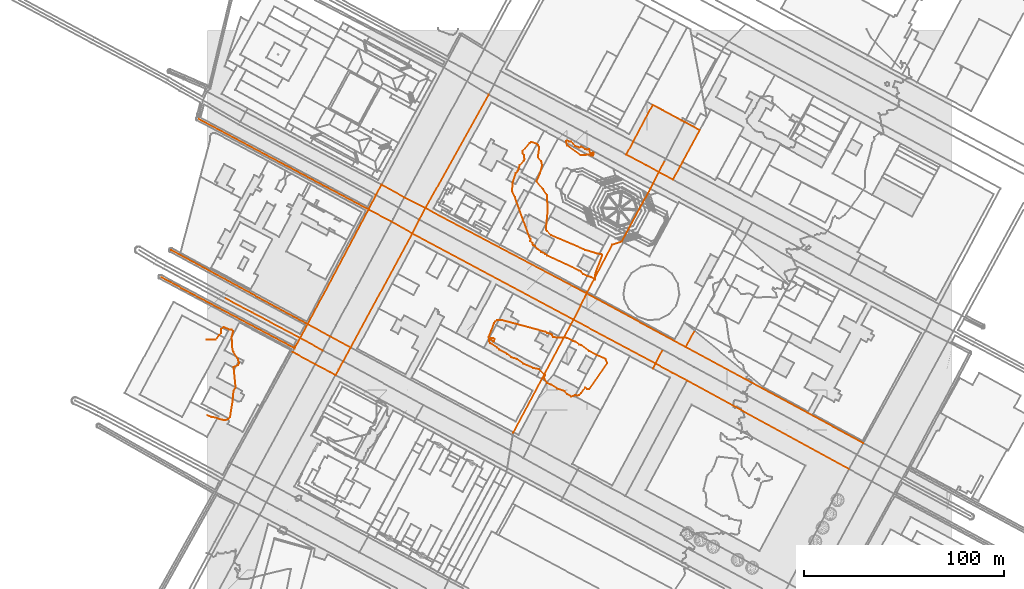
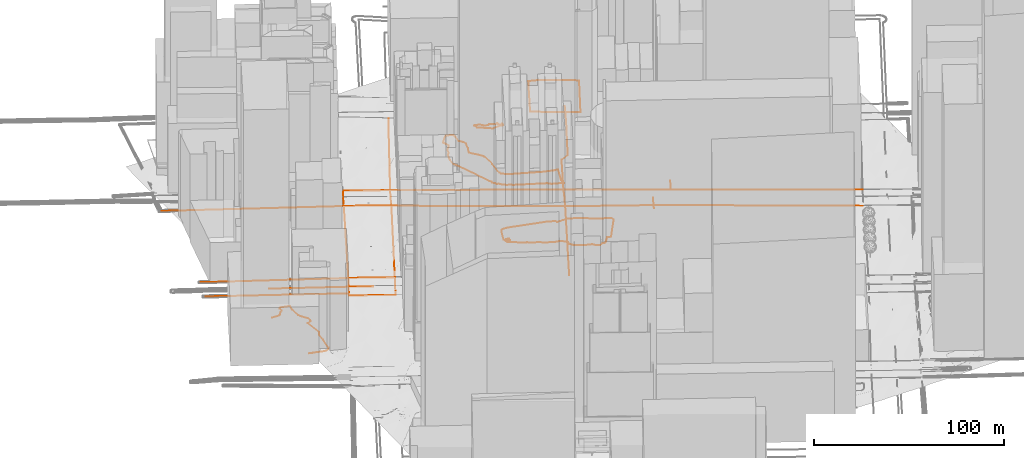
# Not in any storey, part 59 of 76: 26 proxies.
"""IFC2X3 model written with IfcOpenShell, lengths in metres."""

from ifc_helpers import new_model, entity, si_unit, frame, origin_with_axes, place, context, subcontext, project, element, save


model = new_model("IFC2X3")

# Units and contexts
model_context = context("Model", 3, precision=1e-05, world=origin_with_axes())
body_context = subcontext(model_context, "Body", "Model", "MODEL_VIEW")
ifc_project = project(units=[si_unit("AREAUNIT", "SQUARE_METRE"), si_unit("LENGTHUNIT", "METRE")], contexts=[model_context])

# Proxies
proxy_1_placement = place(None, frame((221.6914920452, 300.1820826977, 22.0065452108), z_axis=(0.0, 0.0, 1.0), x_axis=(1.0, 0.0, 0.0)))
element("IfcBuildingElementProxy", 1, at=proxy_1_placement, Name="Route 0", ObjectType="NOTDEFINED", context=body_context, shape_type="GeometricCurveSet", body=[
    entity("IfcGeometricCurveSet", [entity("IfcPolyline", [entity("IfcCartesianPoint", [7.1813434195, 13.9835591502, -0.007102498]), entity("IfcCartesianPoint", [4.3171463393, 8.3991133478, -0.0301236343]), entity("IfcCartesianPoint", [1.3868431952, 2.6917750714, -0.0089403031]), entity("IfcCartesianPoint", [0.0, 0.0, 0.0])])]),
])
proxy_2_placement = place(None, frame((209.716351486, 317.3290231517, 22.5387730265), z_axis=(0.0, 0.0, 1.0), x_axis=(1.0, 0.0, 0.0)))
element("IfcBuildingElementProxy", 2, at=proxy_2_placement, Name="Route 18", ObjectType="NOTDEFINED", context=body_context, shape_type="GeometricCurveSet", body=[
    entity("IfcGeometricCurveSet", [entity("IfcPolyline", [entity("IfcCartesianPoint", [13.224989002, 24.9007489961, -0.0643946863]), entity("IfcCartesianPoint", [3.4611854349, 6.51286982, -0.0049201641]), entity("IfcCartesianPoint", [0.0, 0.0, 0.0]), entity("IfcCartesianPoint", [9.8195148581, -5.2703915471, -0.3813969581]), entity("IfcCartesianPoint", [16.2922868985, -8.7478271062, -0.56235145]), entity("IfcCartesianPoint", [23.3089849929, -12.5408953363, -0.8260529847]), entity("IfcCartesianPoint", [26.8958559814, -5.9488364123, -0.8414921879]), entity("IfcCartesianPoint", [28.0941194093, -3.7366492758, -0.7556451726]), entity("IfcCartesianPoint", [36.7634854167, 12.2182371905, -0.1904538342]), entity("IfcCartesianPoint", [29.1522436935, 16.3263411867, 0.3171468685]), entity("IfcCartesianPoint", [27.6912307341, 17.1087071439, 0.3496432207]), entity("IfcCartesianPoint", [18.2621757, 22.1948782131, 0.4989657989]), entity("IfcCartesianPoint", [13.224989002, 24.9007489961, -0.0643946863])])]),
])
proxy_3_placement = place(None, frame((190.2222719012, 248.6125172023, 21.7573858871), z_axis=(0.0, 0.0, 1.0), x_axis=(1.0, 0.0, 0.0)))
element("IfcBuildingElementProxy", 3, at=proxy_3_placement, Name="Route 22", ObjectType="NOTDEFINED", context=body_context, shape_type="GeometricCurveSet", body=[
    entity("IfcGeometricCurveSet", [entity("IfcPolyline", [entity("IfcCartesianPoint", [31.469220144, 51.5695654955, 0.2491593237]), entity("IfcCartesianPoint", [17.1970672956, 25.2466581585, 0.1757418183]), entity("IfcCartesianPoint", [12.4971571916, 23.6265853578, -0.2456597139]), entity("IfcCartesianPoint", [0.0, 0.0, 0.0])])]),
])
proxy_4_placement = place(None, frame((239.4445487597, 221.0185473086, 20.588457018), z_axis=(0.0, 0.0, 1.0), x_axis=(1.0, 0.0, 0.0)))
element("IfcBuildingElementProxy", 4, at=proxy_4_placement, Name="Route 26", ObjectType="NOTDEFINED", context=body_context, shape_type="GeometricCurveSet", body=[
    entity("IfcGeometricCurveSet", [entity("IfcPolyline", [entity("IfcCartesianPoint", [4.3627355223, 8.1109935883, -0.0503170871]), entity("IfcCartesianPoint", [0.0, 0.0, 0.0])])]),
])
proxy_5_placement = place(None, frame((183.2933523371, 234.687446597, 21.2020044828), z_axis=(0.0, 0.0, 1.0), x_axis=(1.0, 0.0, 0.0)))
element("IfcBuildingElementProxy", 5, at=proxy_5_placement, Name="Route 28", ObjectType="NOTDEFINED", context=body_context, shape_type="GeometricCurveSet", body=[
    entity("IfcGeometricCurveSet", [entity("IfcPolyline", [entity("IfcCartesianPoint", [6.9289195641, 13.9250706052, 0.5553814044]), entity("IfcCartesianPoint", [6.5412600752, 13.1434054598, 0.5564297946]), entity("IfcCartesianPoint", [3.5721866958, 7.1358717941, 0.5930666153]), entity("IfcCartesianPoint", [0.0, 0.0, 0.0])])]),
])
proxy_6_placement = place(None, frame((223.0244156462, 210.2581966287, 20.9465773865), z_axis=(0.0, 0.0, 1.0), x_axis=(1.0, 0.0, 0.0)))
element("IfcBuildingElementProxy", 6, at=proxy_6_placement, Name="Route 29", ObjectType="NOTDEFINED", context=body_context, shape_type="GeometricCurveSet", body=[
    entity("IfcGeometricCurveSet", [entity("IfcPolyline", [entity("IfcCartesianPoint", [4.8122586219, 9.3818691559, -0.111767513]), entity("IfcCartesianPoint", [1.2625798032, 2.4904885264, -0.0685903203]), entity("IfcCartesianPoint", [0.0, 0.0, 0.0])])]),
])
proxy_7_placement = place(None, frame((102.657445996, 277.837477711, 23.607753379), z_axis=(0.0, 0.0, 1.0), x_axis=(1.0, 0.0, 0.0)))
element("IfcBuildingElementProxy", 7, at=proxy_7_placement, Name="Route 63", ObjectType="NOTDEFINED", context=body_context, shape_type="GeometricCurveSet", body=[
    entity("IfcGeometricCurveSet", [entity("IfcPolyline", [entity("IfcCartesianPoint", [218.4686729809, -117.874379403, -5.0704013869]), entity("IfcCartesianPoint", [137.4800820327, -73.5752777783, -3.1306998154]), entity("IfcCartesianPoint", [130.3192845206, -69.7394813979, -2.9728178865]), entity("IfcCartesianPoint", [121.6295494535, -65.088792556, -2.7297663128]), entity("IfcCartesianPoint", [80.6359063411, -43.150031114, -2.4057488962]), entity("IfcCartesianPoint", [0.0, 0.0, 0.0])])]),
])
proxy_8_placement = place(None, frame((153.1873042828, 178.3599374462, 21.5808719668), z_axis=(0.0, 0.0, 1.0), x_axis=(1.0, 0.0, 0.0)))
element("IfcBuildingElementProxy", 8, at=proxy_8_placement, Name="Route 71", ObjectType="NOTDEFINED", context=body_context, shape_type="GeometricCurveSet", body=[
    entity("IfcGeometricCurveSet", [entity("IfcPolyline", [entity("IfcCartesianPoint", [30.1060480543, 56.3275091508, -0.378867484]), entity("IfcCartesianPoint", [0.0, 0.0, 0.0])])]),
])
proxy_9_placement = place(None, frame((109.1959105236, 290.5033806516, 23.5796819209), z_axis=(0.0, 0.0, 1.0), x_axis=(1.0, 0.0, 0.0)))
element("IfcBuildingElementProxy", 9, at=proxy_9_placement, Name="Route 73", ObjectType="NOTDEFINED", context=body_context, shape_type="GeometricCurveSet", body=[
    entity("IfcGeometricCurveSet", [entity("IfcPolyline", [entity("IfcCartesianPoint", [0.0, 0.0, 0.0]), entity("IfcCartesianPoint", [80.6387018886, -42.6725285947, -1.8212476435]), entity("IfcCartesianPoint", [130.2486382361, -69.484833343, -2.9912249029]), entity("IfcCartesianPoint", [219.1057495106, -117.5114905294, -5.0294067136])])]),
])
proxy_10_placement = place(None, frame((109.1959105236, 290.5033806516, 23.5796819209), z_axis=(0.0, 0.0, 1.0), x_axis=(1.0, 0.0, 0.0)))
element("IfcBuildingElementProxy", 10, at=proxy_10_placement, Name="Route 79", ObjectType="NOTDEFINED", context=body_context, shape_type="GeometricCurveSet", body=[
    entity("IfcGeometricCurveSet", [entity("IfcPolyline", [entity("IfcCartesianPoint", [0.0, 0.0, 0.0]), entity("IfcCartesianPoint", [31.6957949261, 56.8010097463, 0.557950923])])]),
])
proxy_11_placement = place(None, frame((-4.4717454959, 335.269331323, 22.9013039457), z_axis=(0.0, 0.0, 1.0), x_axis=(1.0, 0.0, 0.0)))
element("IfcBuildingElementProxy", 11, at=proxy_11_placement, Name="Route 93", ObjectType="NOTDEFINED", context=body_context, shape_type="GeometricCurveSet", body=[
    entity("IfcGeometricCurveSet", [entity("IfcPolyline", [entity("IfcCartesianPoint", [0.0, 0.0, 0.0]), entity("IfcCartesianPoint", [85.1859384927, -45.4520105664, 0.9215437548])])]),
])
proxy_12_placement = place(None, frame((80.7141929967, 289.8173207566, 23.8228477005), z_axis=(0.0, 0.0, 1.0), x_axis=(1.0, 0.0, 0.0)))
element("IfcBuildingElementProxy", 12, at=proxy_12_placement, Name="Route 94", ObjectType="NOTDEFINED", context=body_context, shape_type="GeometricCurveSet", body=[
    entity("IfcGeometricCurveSet", [entity("IfcPolyline", [entity("IfcCartesianPoint", [6.5415840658, 12.3994652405, 0.1173925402]), entity("IfcCartesianPoint", [3.7052368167, 7.3150021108, 0.1115633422]), entity("IfcCartesianPoint", [0.0, 0.0, 0.0]), entity("IfcCartesianPoint", [11.6607876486, -6.0929483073, -0.0499427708]), entity("IfcCartesianPoint", [21.9432529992, -11.9798430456, -0.2150943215]), entity("IfcCartesianPoint", [25.4419814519, -5.0558072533, -0.2664861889]), entity("IfcCartesianPoint", [28.4817175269, 0.686059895, -0.2431657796]), entity("IfcCartesianPoint", [17.9429025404, 6.1147755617, 0.0560787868]), entity("IfcCartesianPoint", [6.5415840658, 12.3994652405, 0.1173925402])])]),
])
proxy_13_placement = place(None, frame((50.2902992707, 232.4651420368, 23.0374757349), z_axis=(0.0, 0.0, 1.0), x_axis=(1.0, 0.0, 0.0)))
element("IfcBuildingElementProxy", 13, at=proxy_13_placement, Name="Route 95", ObjectType="NOTDEFINED", context=body_context, shape_type="GeometricCurveSet", body=[
    entity("IfcGeometricCurveSet", [entity("IfcPolyline", [entity("IfcCartesianPoint", [30.4238937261, 57.3521787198, 0.7853719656]), entity("IfcCartesianPoint", [0.0, 0.0, 0.0])])]),
])
proxy_14_placement = place(None, frame((71.7914187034, 220.768731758, 23.068825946), z_axis=(0.0, 0.0, 1.0), x_axis=(1.0, 0.0, 0.0)))
element("IfcBuildingElementProxy", 14, at=proxy_14_placement, Name="Route 96", ObjectType="NOTDEFINED", context=body_context, shape_type="GeometricCurveSet", body=[
    entity("IfcGeometricCurveSet", [entity("IfcPolyline", [entity("IfcCartesianPoint", [30.8660272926, 57.068745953, 0.538927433]), entity("IfcCartesianPoint", [0.0, 0.0, 0.0])])]),
])
proxy_15_placement = place(None, frame((50.2902992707, 232.4651420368, 23.0374757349), z_axis=(0.0, 0.0, 1.0), x_axis=(1.0, 0.0, 0.0)))
element("IfcBuildingElementProxy", 15, at=proxy_15_placement, Name="Route 97", ObjectType="NOTDEFINED", context=body_context, shape_type="GeometricCurveSet", body=[
    entity("IfcGeometricCurveSet", [entity("IfcPolyline", [entity("IfcCartesianPoint", [0.0, 0.0, 0.0]), entity("IfcCartesianPoint", [11.2645412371, -6.1309043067, 0.1583547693]), entity("IfcCartesianPoint", [21.5011194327, -11.6964102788, 0.0313502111])])]),
])
proxy_16_placement = place(None, frame((43.6855115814, 220.4091503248, 22.8510504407), z_axis=(0.0, 0.0, 1.0), x_axis=(1.0, 0.0, 0.0)))
element("IfcBuildingElementProxy", 16, at=proxy_16_placement, Name="Route 98", ObjectType="NOTDEFINED", context=body_context, shape_type="GeometricCurveSet", body=[
    entity("IfcGeometricCurveSet", [entity("IfcPolyline", [entity("IfcCartesianPoint", [0.0, 0.0, 0.0]), entity("IfcCartesianPoint", [0.446372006, 0.8156452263, 0.0232480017]), entity("IfcCartesianPoint", [2.827063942, 5.1620533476, 0.1054139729]), entity("IfcCartesianPoint", [6.6047876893, 12.055991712, 0.1864252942])])]),
])
proxy_17_placement = place(None, frame((22.7047984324, 238.1846101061, 22.8365187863), z_axis=(0.0, 0.0, 1.0), x_axis=(1.0, 0.0, 0.0)))
element("IfcBuildingElementProxy", 17, at=proxy_17_placement, Name="Route 99", ObjectType="NOTDEFINED", context=body_context, shape_type="GeometricCurveSet", body=[
    entity("IfcGeometricCurveSet", [entity("IfcPolyline", [entity("IfcCartesianPoint", [0.0, 0.0, 0.0]), entity("IfcCartesianPoint", [23.8077770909, -12.6134064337, 0.1199456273]), entity("IfcCartesianPoint", [35.1243848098, -18.8658369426, 0.1970707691])])]),
])
proxy_18_placement = place(None, frame((-17.9753778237, 269.553912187, 21.7094315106), z_axis=(0.0, 0.0, 1.0), x_axis=(1.0, 0.0, 0.0)))
element("IfcBuildingElementProxy", 18, at=proxy_18_placement, Name="Route 100", ObjectType="NOTDEFINED", context=body_context, shape_type="GeometricCurveSet", body=[
    entity("IfcGeometricCurveSet", [entity("IfcPolyline", [entity("IfcCartesianPoint", [68.2656770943, -37.0887701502, 1.3280442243]), entity("IfcCartesianPoint", [0.0, 0.0, 0.0])])]),
])
proxy_19_placement = place(None, frame((-23.3654970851, 256.1131870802, 22.6185185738), z_axis=(0.0, 0.0, 1.0), x_axis=(1.0, 0.0, 0.0)))
element("IfcBuildingElementProxy", 19, at=proxy_19_placement, Name="Route 101", ObjectType="NOTDEFINED", context=body_context, shape_type="GeometricCurveSet", body=[
    entity("IfcGeometricCurveSet", [entity("IfcPolyline", [entity("IfcCartesianPoint", [0.0, 0.0, 0.0]), entity("IfcCartesianPoint", [67.0510086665, -35.7040367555, 0.2325318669])])]),
])
proxy_20_placement = place(None, frame((8.9366389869, 245.4744648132, 22.8469934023), z_axis=(0.0, 0.0, 1.0), x_axis=(1.0, 0.0, 0.0)))
element("IfcBuildingElementProxy", 20, at=proxy_20_placement, Name="Route 102", ObjectType="NOTDEFINED", context=body_context, shape_type="GeometricCurveSet", body=[
    entity("IfcGeometricCurveSet", [entity("IfcPolyline", [entity("IfcCartesianPoint", [0.0, 0.0, 0.0]), entity("IfcCartesianPoint", [13.7681594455, -7.2898547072, -0.010474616])])]),
])
proxy_21_placement = place(None, frame((42.6934159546, 218.6101730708, 22.784377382), z_axis=(0.0, 0.0, 1.0), x_axis=(1.0, 0.0, 0.0)))
element("IfcBuildingElementProxy", 21, at=proxy_21_placement, Name="Route 105", ObjectType="NOTDEFINED", context=body_context, shape_type="GeometricCurveSet", body=[
    entity("IfcGeometricCurveSet", [entity("IfcPolyline", [entity("IfcCartesianPoint", [21.5095865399, -11.6963345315, 0.0193814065]), entity("IfcCartesianPoint", [18.7649268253, -10.1405765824, 0.0803409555]), entity("IfcCartesianPoint", [11.3749239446, -6.1851460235, 0.0625469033]), entity("IfcCartesianPoint", [1.9714278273, -1.1206496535, 0.0317094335]), entity("IfcCartesianPoint", [0.0, 0.0, 0.0])])]),
])
proxy_22_placement = place(None, frame((64.2030024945, 206.9138385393, 22.8037587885), z_axis=(0.0, 0.0, 1.0), x_axis=(1.0, 0.0, 0.0)))
element("IfcBuildingElementProxy", 22, at=proxy_22_placement, Name="Route 106", ObjectType="NOTDEFINED", context=body_context, shape_type="GeometricCurveSet", body=[
    entity("IfcGeometricCurveSet", [entity("IfcPolyline", [entity("IfcCartesianPoint", [7.5884162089, 13.8548932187, 0.2650671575]), entity("IfcCartesianPoint", [3.8107057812, 6.9609437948, 0.1635970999]), entity("IfcCartesianPoint", [1.6298840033, 2.849996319, 0.0696722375]), entity("IfcCartesianPoint", [0.0, 0.0, 0.0])])]),
])
proxy_23_placement = place(None, frame((179.5478322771, 324.0447113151, 20.0), z_axis=(0.0, 0.0, 1.0), x_axis=(1.0, 0.0, 0.0)))
element("IfcBuildingElementProxy", 23, at=proxy_23_placement, Name="Contour 20.0 m", ObjectType="NOTDEFINED", context=body_context, shape_type="GeometricCurveSet", body=[
    entity("IfcGeometricCurveSet", [entity("IfcPolyline", [entity("IfcCartesianPoint", [13.6436704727, -7.0982305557, 0.0]), entity("IfcCartesianPoint", [13.9050490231, -6.0, 0.0]), entity("IfcCartesianPoint", [13.6436704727, -5.7284860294, 0.0]), entity("IfcCartesianPoint", [13.0319699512, -6.0, 0.0]), entity("IfcCartesianPoint", [12.6436704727, -6.6668087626, 0.0]), entity("IfcCartesianPoint", [11.7792610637, -5.0, 0.0]), entity("IfcCartesianPoint", [11.6436704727, -3.8823512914, 0.0]), entity("IfcCartesianPoint", [10.6436704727, -4.144213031, 0.0]), entity("IfcCartesianPoint", [9.6436704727, -3.9954131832, 0.0]), entity("IfcCartesianPoint", [7.6436704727, -2.7212588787, 0.0]), entity("IfcCartesianPoint", [6.6436704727, -3.1965274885, 0.0]), entity("IfcCartesianPoint", [4.6436704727, -2.3911730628, 0.0]), entity("IfcCartesianPoint", [2.6436704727, -0.0876366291, 0.0]), entity("IfcCartesianPoint", [1.6436704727, -0.2877341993, 0.0]), entity("IfcCartesianPoint", [0.6436704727, 0.3405535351, 0.0]), entity("IfcCartesianPoint", [0.0, 0.0, 0.0]), entity("IfcCartesianPoint", [0.6436704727, -2.1197408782, 0.0]), entity("IfcCartesianPoint", [7.2942356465, -7.0, 0.0]), entity("IfcCartesianPoint", [11.6436704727, -6.7170598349, 0.0]), entity("IfcCartesianPoint", [12.6436704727, -7.1406942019, 0.0]), entity("IfcCartesianPoint", [13.6436704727, -7.0982305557, 0.0])])]),
])
proxy_24_placement = place(None, frame((152.6583533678, 299.0447113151, 20.0), z_axis=(0.0, 0.0, 1.0), x_axis=(1.0, 0.0, 0.0)))
element("IfcBuildingElementProxy", 24, at=proxy_24_placement, Name="Contour 20.0 m", ObjectType="NOTDEFINED", context=body_context, shape_type="GeometricCurveSet", body=[
    entity("IfcGeometricCurveSet", [entity("IfcPolyline", [entity("IfcCartesianPoint", [41.533149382, -44.1426469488, 0.0]), entity("IfcCartesianPoint", [41.5958788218, -41.0, 0.0]), entity("IfcCartesianPoint", [45.0331732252, -32.0, 0.0]), entity("IfcCartesianPoint", [44.533149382, -31.5383949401, 0.0]), entity("IfcCartesianPoint", [42.533149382, -31.2498420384, 0.0]), entity("IfcCartesianPoint", [36.533149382, -29.3844302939, 0.0]), entity("IfcCartesianPoint", [19.533149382, -22.0830763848, 0.0]), entity("IfcCartesianPoint", [17.3334316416, -20.0, 0.0]), entity("IfcCartesianPoint", [16.8491015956, -19.0, 0.0]), entity("IfcCartesianPoint", [17.7150463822, -10.0, 0.0]), entity("IfcCartesianPoint", [17.4618551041, -2.0, 0.0]), entity("IfcCartesianPoint", [15.4196989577, 1.0, 0.0]), entity("IfcCartesianPoint", [12.169711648, 5.0, 0.0]), entity("IfcCartesianPoint", [13.8880400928, 9.0, 0.0]), entity("IfcCartesianPoint", [14.9722449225, 13.0, 0.0]), entity("IfcCartesianPoint", [14.533149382, 15.0003541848, 0.0]), entity("IfcCartesianPoint", [12.8191283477, 17.0, 0.0]), entity("IfcCartesianPoint", [13.3953182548, 21.0, 0.0]), entity("IfcCartesianPoint", [13.4059913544, 22.0, 0.0]), entity("IfcCartesianPoint", [12.9922755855, 23.0, 0.0]), entity("IfcCartesianPoint", [12.533149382, 23.5491397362, 0.0]), entity("IfcCartesianPoint", [9.533149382, 24.6552216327, 0.0]), entity("IfcCartesianPoint", [8.6283982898, 24.0, 0.0]), entity("IfcCartesianPoint", [5.1047103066, 20.0, 0.0]), entity("IfcCartesianPoint", [5.2606522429, 19.0, 0.0]), entity("IfcCartesianPoint", [5.8665957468, 18.0, 0.0]), entity("IfcCartesianPoint", [6.1240840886, 16.0, 0.0]), entity("IfcCartesianPoint", [5.6442063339, 15.0, 0.0]), entity("IfcCartesianPoint", [3.7519768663, 13.0, 0.0]), entity("IfcCartesianPoint", [2.7978032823, 10.0, 0.0]), entity("IfcCartesianPoint", [1.7184175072, 9.0, 0.0]), entity("IfcCartesianPoint", [0.1258628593, 4.0, 0.0]), entity("IfcCartesianPoint", [0.0, 0.0, 0.0]), entity("IfcCartesianPoint", [1.3190242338, -3.0, 0.0]), entity("IfcCartesianPoint", [8.604794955, -23.0, 0.0]), entity("IfcCartesianPoint", [9.1999078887, -24.0, 0.0]), entity("IfcCartesianPoint", [9.0334176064, -25.0, 0.0]), entity("IfcCartesianPoint", [10.1332924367, -26.0, 0.0]), entity("IfcCartesianPoint", [10.3970237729, -27.0, 0.0]), entity("IfcCartesianPoint", [11.533149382, -27.5553883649, 0.0]), entity("IfcCartesianPoint", [12.7073869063, -29.0, 0.0]), entity("IfcCartesianPoint", [14.533149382, -30.4283446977, 0.0]), entity("IfcCartesianPoint", [16.533149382, -31.3634640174, 0.0]), entity("IfcCartesianPoint", [17.533149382, -32.1997820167, 0.0]), entity("IfcCartesianPoint", [33.533149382, -39.7239721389, 0.0]), entity("IfcCartesianPoint", [34.533149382, -40.3497940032, 0.0]), entity("IfcCartesianPoint", [35.533149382, -41.4542971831, 0.0]), entity("IfcCartesianPoint", [37.533149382, -42.4812588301, 0.0]), entity("IfcCartesianPoint", [39.533149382, -42.9998526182, 0.0]), entity("IfcCartesianPoint", [41.533149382, -44.1426469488, 0.0])])]),
])
proxy_25_placement = place(None, frame((140.8839853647, 226.0447113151, 20.0), z_axis=(0.0, 0.0, 1.0), x_axis=(1.0, 0.0, 0.0)))
element("IfcBuildingElementProxy", 25, at=proxy_25_placement, Name="Contour 20.0 m", ObjectType="NOTDEFINED", context=body_context, shape_type="GeometricCurveSet", body=[
    entity("IfcGeometricCurveSet", [entity("IfcPolyline", [entity("IfcCartesianPoint", [44.3075173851, -29.3075381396, 0.0]), entity("IfcCartesianPoint", [45.177015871, -29.0, 0.0]), entity("IfcCartesianPoint", [46.2004051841, -28.0, 0.0]), entity("IfcCartesianPoint", [48.3075173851, -25.2105506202, 0.0]), entity("IfcCartesianPoint", [49.3075173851, -26.1361441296, 0.0]), entity("IfcCartesianPoint", [50.3075173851, -25.9090136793, 0.0]), entity("IfcCartesianPoint", [59.3075531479, -13.0, 0.0]), entity("IfcCartesianPoint", [58.6077004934, -11.0, 0.0]), entity("IfcCartesianPoint", [53.9747137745, -9.0, 0.0]), entity("IfcCartesianPoint", [50.1967688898, -7.0, 0.0]), entity("IfcCartesianPoint", [46.3077228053, -4.0, 0.0]), entity("IfcCartesianPoint", [45.3075173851, -3.7198446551, 0.0]), entity("IfcCartesianPoint", [43.3075173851, -2.2271186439, 0.0]), entity("IfcCartesianPoint", [42.2246397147, -2.0, 0.0]), entity("IfcCartesianPoint", [39.3075173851, -0.3998565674, 0.0]), entity("IfcCartesianPoint", [32.3075173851, -0.0830809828, 0.0]), entity("IfcCartesianPoint", [31.8370928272, 1.0, 0.0]), entity("IfcCartesianPoint", [31.3075173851, 1.4501411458, 0.0]), entity("IfcCartesianPoint", [29.3075173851, 2.0002007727, 0.0]), entity("IfcCartesianPoint", [28.3075173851, 2.6317321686, 0.0]), entity("IfcCartesianPoint", [6.3075173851, 8.5883765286, 0.0]), entity("IfcCartesianPoint", [4.3075173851, 8.5882722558, 0.0]), entity("IfcCartesianPoint", [3.3075173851, 7.8181455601, 0.0]), entity("IfcCartesianPoint", [2.6647380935, 7.0, 0.0]), entity("IfcCartesianPoint", [0.0, 0.0, 0.0]), entity("IfcCartesianPoint", [0.3075173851, -0.9997138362, 0.0]), entity("IfcCartesianPoint", [1.3075173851, -0.5000794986, 0.0]), entity("IfcCartesianPoint", [2.3075173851, -0.499940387, 0.0]), entity("IfcCartesianPoint", [2.8789809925, -1.0, 0.0]), entity("IfcCartesianPoint", [2.6823265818, -2.0, 0.0]), entity("IfcCartesianPoint", [2.3075173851, -2.2306315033, 0.0]), entity("IfcCartesianPoint", [1.3075173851, -1.3332344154, 0.0]), entity("IfcCartesianPoint", [0.3075173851, -1.0003818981, 0.0]), entity("IfcCartesianPoint", [0.1965718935, -2.0, 0.0]), entity("IfcCartesianPoint", [0.8080623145, -3.0, 0.0]), entity("IfcCartesianPoint", [4.3075173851, -5.3553473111, 0.0]), entity("IfcCartesianPoint", [5.3075173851, -6.3179359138, 0.0]), entity("IfcCartesianPoint", [9.3075173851, -8.4235489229, 0.0]), entity("IfcCartesianPoint", [11.3075173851, -10.0786405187, 0.0]), entity("IfcCartesianPoint", [14.3075173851, -11.0855863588, 0.0]), entity("IfcCartesianPoint", [17.3075173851, -13.3027943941, 0.0]), entity("IfcCartesianPoint", [22.3075173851, -15.4735195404, 0.0]), entity("IfcCartesianPoint", [25.3075173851, -16.1319148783, 0.0]), entity("IfcCartesianPoint", [28.1712195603, -19.0, 0.0]), entity("IfcCartesianPoint", [27.7660473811, -20.0, 0.0]), entity("IfcCartesianPoint", [27.9460596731, -21.0, 0.0]), entity("IfcCartesianPoint", [29.3393488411, -23.0, 0.0]), entity("IfcCartesianPoint", [31.3075173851, -23.8367779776, 0.0]), entity("IfcCartesianPoint", [34.3075173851, -25.7805348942, 0.0]), entity("IfcCartesianPoint", [37.9920036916, -27.0, 0.0]), entity("IfcCartesianPoint", [39.3075173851, -28.5818181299, 0.0]), entity("IfcCartesianPoint", [41.3075173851, -29.7654407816, 0.0]), entity("IfcCartesianPoint", [43.3075173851, -29.0327518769, 0.0]), entity("IfcCartesianPoint", [44.3075173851, -29.3075381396, 0.0])])]),
])
proxy_26_placement = place(None, frame((-0.3084972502, 186.9717452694, 20.0), z_axis=(0.0, 0.0, 1.0), x_axis=(1.0, 0.0, 0.0)))
element("IfcBuildingElementProxy", 26, at=proxy_26_placement, Name="Contour 20.0 m", ObjectType="NOTDEFINED", context=body_context, shape_type="GeometricCurveSet", body=[
    entity("IfcGeometricCurveSet", [entity("IfcPolyline", [entity("IfcCartesianPoint", [0.0, 0.0, 0.0]), entity("IfcCartesianPoint", [2.5, -0.8712941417, 0.0]), entity("IfcCartesianPoint", [4.5, -1.190785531, 0.0]), entity("IfcCartesianPoint", [6.5, -2.0454888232, 0.0]), entity("IfcCartesianPoint", [8.5, -2.3923994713, 0.0]), entity("IfcCartesianPoint", [9.5, -2.4420128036, 0.0]), entity("IfcCartesianPoint", [10.8075060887, -1.9270339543, 0.0]), entity("IfcCartesianPoint", [11.7941466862, -0.9270339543, 0.0]), entity("IfcCartesianPoint", [13.0556579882, 7.0729660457, 0.0]), entity("IfcCartesianPoint", [13.5001059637, 12.0729660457, 0.0]), entity("IfcCartesianPoint", [14.5625491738, 14.0729660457, 0.0]), entity("IfcCartesianPoint", [13.583357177, 24.0729660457, 0.0]), entity("IfcCartesianPoint", [15.7498330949, 25.0729660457, 0.0]), entity("IfcCartesianPoint", [16.2334113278, 26.0729660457, 0.0]), entity("IfcCartesianPoint", [15.7501579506, 28.0729660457, 0.0]), entity("IfcCartesianPoint", [13.5, 31.4899718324, 0.0]), entity("IfcCartesianPoint", [12.9723103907, 33.0729660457, 0.0]), entity("IfcCartesianPoint", [12.6177193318, 39.0729660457, 0.0]), entity("IfcCartesianPoint", [13.3500491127, 42.0729660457, 0.0]), entity("IfcCartesianPoint", [12.5, 42.9230637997, 0.0]), entity("IfcCartesianPoint", [11.5, 42.8423621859, 0.0]), entity("IfcCartesianPoint", [8.5, 44.0382735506, 0.0]), entity("IfcCartesianPoint", [7.3217729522, 43.0729660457, 0.0]), entity("IfcCartesianPoint", [7.3679323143, 41.0729660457, 0.0]), entity("IfcCartesianPoint", [6.2304277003, 40.0729660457, 0.0]), entity("IfcCartesianPoint", [4.5, 37.7309263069, 0.0]), entity("IfcCartesianPoint", [0.0, 37.9249291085, 0.0])])]),
])

save(model, "model.ifc")
